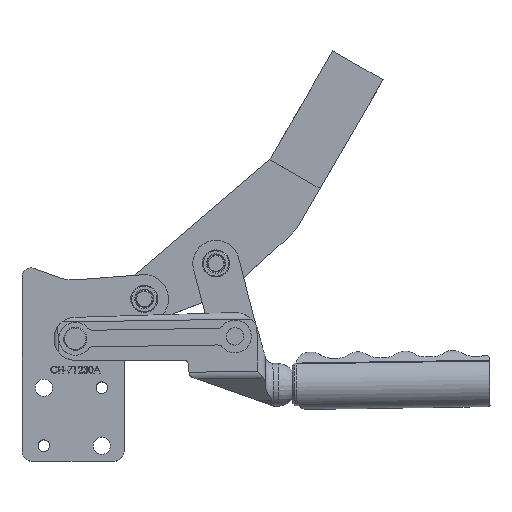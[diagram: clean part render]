
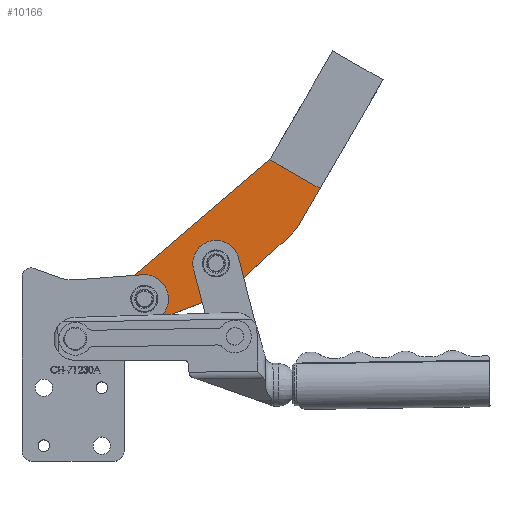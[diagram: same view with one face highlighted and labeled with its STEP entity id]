
A CAD part, top view. The second image highlights one B-rep face of the part: STEP entity #10166.
In plain terms, the highlighted planar face has unit normal (0, 0, 1).
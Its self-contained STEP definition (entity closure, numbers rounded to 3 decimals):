
#620=FACE_BOUND('',#1696,.T.);
#621=FACE_BOUND('',#1697,.T.);
#704=PLANE('',#11014);
#1136=FACE_OUTER_BOUND('',#1695,.T.);
#1695=EDGE_LOOP('',(#7159,#7160,#7161,#7162,#7163,#7164,#7165,#7166));
#1696=EDGE_LOOP('',(#7167,#7168));
#1697=EDGE_LOOP('',(#7169,#7170));
#2324=LINE('',#14634,#3164);
#2327=LINE('',#14642,#3167);
#2330=LINE('',#14649,#3170);
#2331=LINE('',#14652,#3171);
#2333=LINE('',#14655,#3173);
#3164=VECTOR('',#12020,1000.);
#3167=VECTOR('',#12029,1000.);
#3170=VECTOR('',#12038,1000.);
#3171=VECTOR('',#12041,1000.);
#3173=VECTOR('',#12045,1000.);
#3967=CIRCLE('',#10929,5.);
#3968=CIRCLE('',#10930,5.);
#3972=CIRCLE('',#10935,5.);
#3973=CIRCLE('',#10936,5.);
#4018=CIRCLE('',#11004,20.);
#4019=CIRCLE('',#11007,20.);
#4020=CIRCLE('',#11010,12.5);
#4334=VERTEX_POINT('',#14451);
#4335=VERTEX_POINT('',#14453);
#4338=VERTEX_POINT('',#14462);
#4339=VERTEX_POINT('',#14464);
#4385=VERTEX_POINT('',#14591);
#4398=VERTEX_POINT('',#14627);
#4399=VERTEX_POINT('',#14629);
#4400=VERTEX_POINT('',#14633);
#4401=VERTEX_POINT('',#14637);
#4402=VERTEX_POINT('',#14641);
#4403=VERTEX_POINT('',#14645);
#4404=VERTEX_POINT('',#14651);
#5401=EDGE_CURVE('',#4334,#4335,#3967,.T.);
#5402=EDGE_CURVE('',#4335,#4334,#3968,.T.);
#5407=EDGE_CURVE('',#4338,#4339,#3972,.T.);
#5408=EDGE_CURVE('',#4339,#4338,#3973,.T.);
#5490=EDGE_CURVE('',#4399,#4398,#4018,.T.);
#5491=EDGE_CURVE('',#4398,#4400,#2324,.T.);
#5494=EDGE_CURVE('',#4400,#4401,#4019,.T.);
#5495=EDGE_CURVE('',#4401,#4402,#2327,.T.);
#5497=EDGE_CURVE('',#4402,#4403,#4020,.T.);
#5499=EDGE_CURVE('',#4403,#4385,#2330,.T.);
#5500=EDGE_CURVE('',#4385,#4404,#2331,.T.);
#5502=EDGE_CURVE('',#4404,#4399,#2333,.T.);
#7159=ORIENTED_EDGE('',*,*,#5500,.F.);
#7160=ORIENTED_EDGE('',*,*,#5499,.F.);
#7161=ORIENTED_EDGE('',*,*,#5497,.F.);
#7162=ORIENTED_EDGE('',*,*,#5495,.F.);
#7163=ORIENTED_EDGE('',*,*,#5494,.F.);
#7164=ORIENTED_EDGE('',*,*,#5491,.F.);
#7165=ORIENTED_EDGE('',*,*,#5490,.F.);
#7166=ORIENTED_EDGE('',*,*,#5502,.F.);
#7167=ORIENTED_EDGE('',*,*,#5402,.F.);
#7168=ORIENTED_EDGE('',*,*,#5401,.F.);
#7169=ORIENTED_EDGE('',*,*,#5408,.F.);
#7170=ORIENTED_EDGE('',*,*,#5407,.F.);
#10166=ADVANCED_FACE('',(#1136,#620,#621),#704,.F.);
#10929=AXIS2_PLACEMENT_3D('',#14454,#11828,#11829);
#10930=AXIS2_PLACEMENT_3D('',#14455,#11830,#11831);
#10935=AXIS2_PLACEMENT_3D('',#14465,#11841,#11842);
#10936=AXIS2_PLACEMENT_3D('',#14466,#11843,#11844);
#11004=AXIS2_PLACEMENT_3D('',#14631,#12016,#12017);
#11007=AXIS2_PLACEMENT_3D('',#14639,#12025,#12026);
#11010=AXIS2_PLACEMENT_3D('',#14646,#12033,#12034);
#11014=AXIS2_PLACEMENT_3D('',#14656,#12046,#12047);
#11828=DIRECTION('center_axis',(0.,0.,1.));
#11829=DIRECTION('ref_axis',(0.,-1.,0.));
#11830=DIRECTION('center_axis',(0.,0.,1.));
#11831=DIRECTION('ref_axis',(0.,-1.,0.));
#11841=DIRECTION('center_axis',(0.,0.,1.));
#11842=DIRECTION('ref_axis',(1.,0.,0.));
#11843=DIRECTION('center_axis',(0.,0.,1.));
#11844=DIRECTION('ref_axis',(1.,0.,0.));
#12016=DIRECTION('center_axis',(0.,0.,-1.));
#12017=DIRECTION('ref_axis',(-1.,0.,0.));
#12020=DIRECTION('',(0.953,-0.302,0.));
#12025=DIRECTION('center_axis',(0.,0.,-1.));
#12026=DIRECTION('ref_axis',(-1.,0.,0.));
#12029=DIRECTION('',(0.778,-0.628,0.));
#12033=DIRECTION('center_axis',(0.,0.,-1.));
#12034=DIRECTION('ref_axis',(-1.,0.,0.));
#12038=DIRECTION('',(-0.944,0.33,0.));
#12041=DIRECTION('',(0.,1.,0.));
#12045=DIRECTION('',(1.,0.,0.));
#12046=DIRECTION('center_axis',(0.,0.,-1.));
#12047=DIRECTION('ref_axis',(-1.,0.,0.));
#14451=CARTESIAN_POINT('',(-7173.07,8857.567,13.5));
#14453=CARTESIAN_POINT('',(-7173.07,8847.567,13.5));
#14454=CARTESIAN_POINT('Origin',(-7173.07,8852.567,13.5));
#14455=CARTESIAN_POINT('Origin',(-7173.07,8852.567,13.5));
#14462=CARTESIAN_POINT('',(-7212.509,8875.488,13.5));
#14464=CARTESIAN_POINT('',(-7202.509,8875.488,13.5));
#14465=CARTESIAN_POINT('Origin',(-7207.509,8875.488,13.5));
#14466=CARTESIAN_POINT('Origin',(-7207.509,8875.488,13.5));
#14591=CARTESIAN_POINT('',(-7268.07,8872.567,13.5));
#14627=CARTESIAN_POINT('',(-7239.887,8901.633,13.5));
#14629=CARTESIAN_POINT('',(-7245.93,8902.567,13.5));
#14631=CARTESIAN_POINT('Origin',(-7245.93,8882.567,13.5));
#14633=CARTESIAN_POINT('',(-7200.795,8889.242,13.5));
#14634=CARTESIAN_POINT('',(-7239.887,8901.633,13.5));
#14637=CARTESIAN_POINT('',(-7194.279,8885.742,13.5));
#14639=CARTESIAN_POINT('Origin',(-7206.838,8870.177,13.5));
#14641=CARTESIAN_POINT('',(-7165.22,8862.296,13.5));
#14642=CARTESIAN_POINT('',(-7194.279,8885.742,13.5));
#14645=CARTESIAN_POINT('',(-7177.198,8840.769,13.5));
#14646=CARTESIAN_POINT('Origin',(-7173.07,8852.567,13.5));
#14649=CARTESIAN_POINT('',(-7177.198,8840.769,13.5));
#14651=CARTESIAN_POINT('',(-7268.07,8902.567,13.5));
#14652=CARTESIAN_POINT('',(-7268.07,8840.067,13.5));
#14655=CARTESIAN_POINT('',(-7268.07,8902.567,13.5));
#14656=CARTESIAN_POINT('Origin',(-7268.07,8840.067,13.5));
